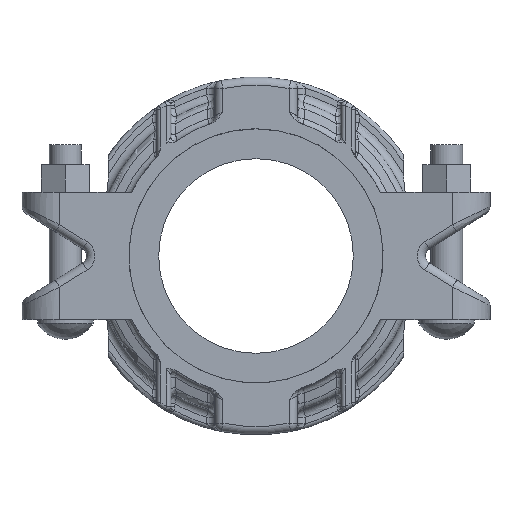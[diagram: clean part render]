
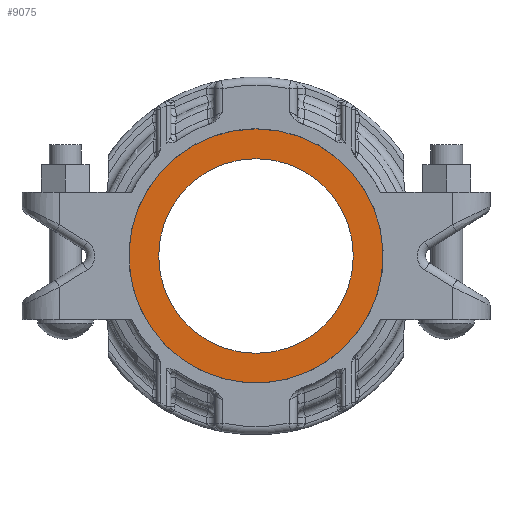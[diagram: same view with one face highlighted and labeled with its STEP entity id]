
A CAD part, top view. The second image highlights one B-rep face of the part: STEP entity #9075.
In plain terms, the highlighted planar face has unit normal (0, 0, 1).
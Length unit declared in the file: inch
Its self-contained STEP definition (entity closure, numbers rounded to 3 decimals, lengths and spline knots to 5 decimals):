
#1723=FACE_BOUND('',#2319,.T.);
#1738=FACE_OUTER_BOUND('',#2318,.T.);
#2318=EDGE_LOOP('',(#5674,#5675));
#2319=EDGE_LOOP('',(#5676));
#2910=CIRCLE('',#9676,1.53125);
#2911=CIRCLE('',#9678,2.);
#2912=CIRCLE('',#9679,2.);
#3499=VERTEX_POINT('',#13265);
#3500=VERTEX_POINT('',#13269);
#3501=VERTEX_POINT('',#13270);
#4301=EDGE_CURVE('',#3499,#3499,#2910,.T.);
#4302=EDGE_CURVE('',#3500,#3501,#2911,.T.);
#4303=EDGE_CURVE('',#3501,#3500,#2912,.T.);
#5674=ORIENTED_EDGE('',*,*,#4302,.F.);
#5675=ORIENTED_EDGE('',*,*,#4303,.F.);
#5676=ORIENTED_EDGE('',*,*,#4301,.T.);
#8409=PLANE('',#9677);
#9075=ADVANCED_FACE('',(#1738,#1723),#8409,.T.);
#9676=AXIS2_PLACEMENT_3D('',#13267,#10744,#10745);
#9677=AXIS2_PLACEMENT_3D('',#13268,#10746,#10747);
#9678=AXIS2_PLACEMENT_3D('',#13271,#10748,#10749);
#9679=AXIS2_PLACEMENT_3D('',#13272,#10750,#10751);
#10744=DIRECTION('center_axis',(0.,0.,-1.));
#10745=DIRECTION('ref_axis',(1.,0.,0.));
#10746=DIRECTION('center_axis',(0.,0.,1.));
#10747=DIRECTION('ref_axis',(-1.,0.,0.));
#10748=DIRECTION('center_axis',(0.,0.,-1.));
#10749=DIRECTION('ref_axis',(0.,-1.,0.));
#10750=DIRECTION('center_axis',(0.,0.,-1.));
#10751=DIRECTION('ref_axis',(0.,-1.,0.));
#13265=CARTESIAN_POINT('',(-1.53125,0.,0.015));
#13267=CARTESIAN_POINT('Origin',(0.,0.,
0.015));
#13268=CARTESIAN_POINT('Origin',(0.,0.,
0.015));
#13269=CARTESIAN_POINT('',(-2.,0.,0.015));
#13270=CARTESIAN_POINT('',(0.,2.,0.015));
#13271=CARTESIAN_POINT('Origin',(0.,0.,
0.015));
#13272=CARTESIAN_POINT('Origin',(0.,0.,
0.015));
